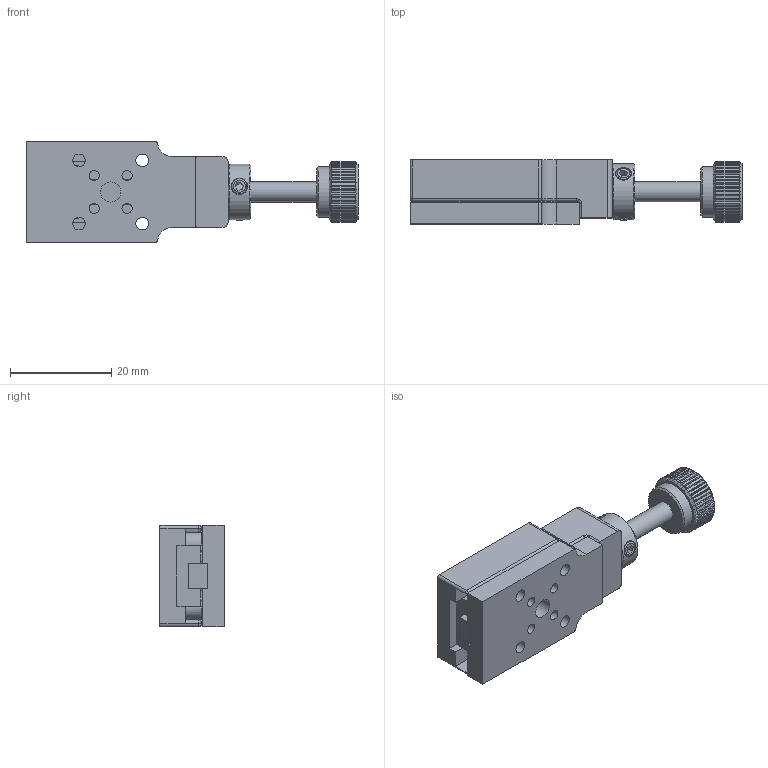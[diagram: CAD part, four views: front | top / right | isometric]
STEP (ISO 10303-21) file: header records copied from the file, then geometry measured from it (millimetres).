
FILE_DESCRIPTION (( 'STEP AP203' ), '1' );
FILE_NAME ('TCR20X-05A.step', '2017-01-10T09:15:34', ( '¦K¬P' ), ( '' ), 'SwSTEP 2.0', 'SolidWorks 2012', '' );
FILE_SCHEMA (( 'CONFIG_CONTROL_DESIGN' ));
Length unit declared in the file: millimetre
Products named in the file (1): TCR20X-05A
Bounding box: 65.72 x 12.7 x 20 mm (x, y, z)
Surface area: 6606 mm2 (no closed solid volume)
Topology: 0 solids, 13 shells, 324 faces, 979 edges, 654 vertices
Faces by surface type: plane 193, cylinder 106, cone 14, sphere 4, torus 4, bspline 3
Full cylindrical faces by diameter (mm): 1.5 x2, 2 x17, 2.5 x4, 3 x4, 3.5 x1, 4 x6, 4.7 x2, 10 x1, 11 x1
Entity records: 13771 total; most frequent: CARTESIAN_POINT 5365, ORIENTED_EDGE 1656, DIRECTION 1629, EDGE_CURVE 910, VERTEX_POINT 645, AXIS2_PLACEMENT_3D 604, EDGE_LOOP 445, VECTOR 421
